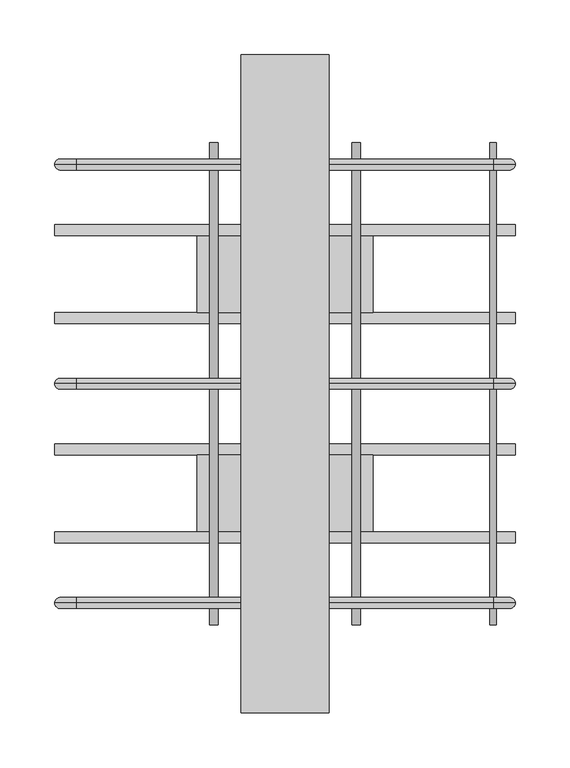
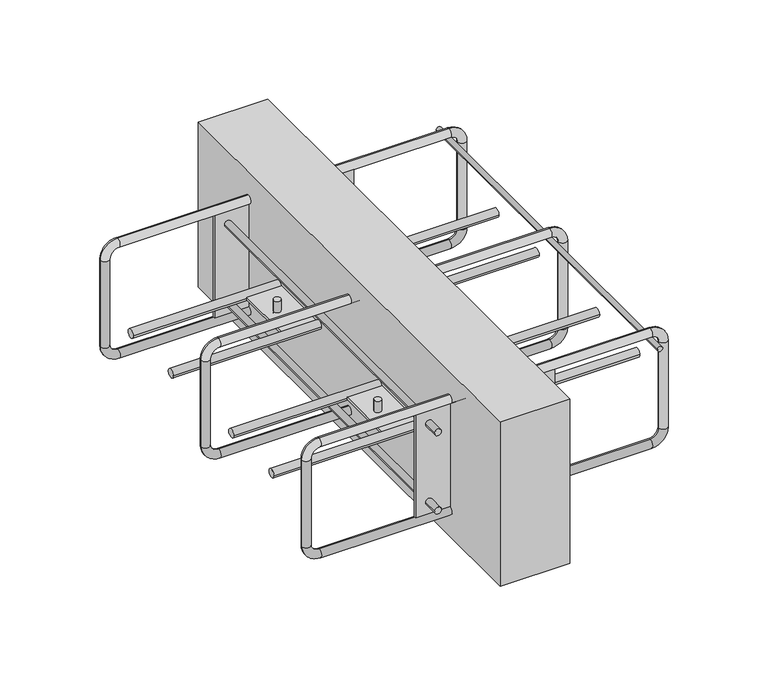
"""IFC4 building model written with IfcOpenShell, lengths in millimetres: fastener geometry, ACINOXplus_Typenreihe_Ux-Ox : OA+ S2."""

from ifc_helpers import new_model, si_unit, point, frame, frame_2d, origin, place, context, project, spatial, polyline, circle_curve, ellipse_curve, trimmed, segment, composite_curve, outline, extrude, source, transform, mapped, element, save
from ifc_brep_helpers import cylinder_surface, revolved_surface, advanced_brep


def fastener_5484707d(model_context):
    return source(origin(), model_context, "Body", "SolidModel", [
        extrude(outline(composite_curve([segment(trimmed(circle_curve(frame_2d((-40.5, 190.0)), 3.0), [point((-40.5, 193.0))], [point((-40.5, 187.0))], False, "CARTESIAN"), True, "CONTINUOUS"), segment(trimmed(circle_curve(frame_2d((-40.5, 190.0)), 3.0), [point((-40.5, 187.0))], [point((-40.5, 193.0))], False, "CARTESIAN"), True, "CONTINUOUS")], self_intersect=False)), frame((0.0, -220.0, 0.0), z_axis=(0.0, 1.0, 0.0), x_axis=(0.0, 0.0, 1.0)), (0.0, 0.0, 1.0), 440.0),
        extrude(outline(composite_curve([segment(trimmed(circle_curve(frame_2d((-140.0, -100.0)), 5.0), [point((-145.0, -100.0))], [point((-135.0, -100.0))], False, "CARTESIAN"), True, "CONTINUOUS"), segment(trimmed(circle_curve(frame_2d((-140.0, -100.0)), 5.0), [point((-135.0, -100.0))], [point((-145.0, -100.0))], False, "CARTESIAN"), True, "CONTINUOUS")], self_intersect=False)), frame((-210.0, 0.0, 0.0), z_axis=(1.0, 0.0, 0.0), x_axis=(0.0, 1.0, 0.0)), (0.0, 0.0, 1.0), 420.0),
        extrude(outline(composite_curve([segment(trimmed(circle_curve(frame_2d((-60.0, -100.0)), 5.0), [point((-65.0, -100.0))], [point((-55.0, -100.0))], False, "CARTESIAN"), True, "CONTINUOUS"), segment(trimmed(circle_curve(frame_2d((-60.0, -100.0)), 5.0), [point((-55.0, -100.0))], [point((-65.0, -100.0))], False, "CARTESIAN"), True, "CONTINUOUS")], self_intersect=False)), frame((-210.0, 0.0, 0.0), z_axis=(1.0, 0.0, 0.0), x_axis=(0.0, 1.0, 0.0)), (0.0, 0.0, 1.0), 420.0),
        extrude(outline(composite_curve([segment(trimmed(circle_curve(frame_2d((-65.0, -100.0)), 4.0), [point((-61.0, -100.0))], [point((-69.0, -100.0))], False, "CARTESIAN"), True, "CONTINUOUS"), segment(trimmed(circle_curve(frame_2d((-65.0, -100.0)), 4.0), [point((-69.0, -100.0))], [point((-61.0, -100.0))], False, "CARTESIAN"), True, "CONTINUOUS")], self_intersect=False)), frame((0.0, 0.0, -98.5), z_axis=(0.0, 0.0, 1.0), x_axis=(1.0, 0.0, 0.0)), (0.0, 0.0, 1.0), 13.5),
        extrude(outline(composite_curve([segment(trimmed(circle_curve(frame_2d((65.0, -100.0)), 4.0), [point((69.0, -100.0))], [point((61.0, -100.0))], False, "CARTESIAN"), True, "CONTINUOUS"), segment(trimmed(circle_curve(frame_2d((65.0, -100.0)), 4.0), [point((61.0, -100.0))], [point((69.0, -100.0))], False, "CARTESIAN"), True, "CONTINUOUS")], self_intersect=False)), frame((0.0, 0.0, -98.5), z_axis=(0.0, 0.0, 1.0), x_axis=(1.0, 0.0, 0.0)), (0.0, 0.0, 1.0), 13.5),
        extrude(outline(composite_curve([segment(trimmed(circle_curve(frame_2d((-65.0, -100.0)), 4.0), [point((-69.0, -100.0))], [point((-61.0, -100.0))], False, "CARTESIAN"), True, "CONTINUOUS"), segment(trimmed(circle_curve(frame_2d((-65.0, -100.0)), 4.0), [point((-61.0, -100.0))], [point((-69.0, -100.0))], False, "CARTESIAN"), True, "CONTINUOUS")], self_intersect=False)), frame((0.0, 0.0, -115.0), z_axis=(0.0, 0.0, 1.0), x_axis=(1.0, 0.0, 0.0)), (0.0, 0.0, 1.0), 13.5),
        extrude(outline(composite_curve([segment(trimmed(circle_curve(frame_2d((65.0, -100.0)), 4.0), [point((61.0, -100.0))], [point((69.0, -100.0))], False, "CARTESIAN"), True, "CONTINUOUS"), segment(trimmed(circle_curve(frame_2d((65.0, -100.0)), 4.0), [point((69.0, -100.0))], [point((61.0, -100.0))], False, "CARTESIAN"), True, "CONTINUOUS")], self_intersect=False)), frame((0.0, 0.0, -115.0), z_axis=(0.0, 0.0, 1.0), x_axis=(1.0, 0.0, 0.0)), (0.0, 0.0, 1.0), 13.5),
        extrude(outline(polyline([(80.0, -65.0), (80.0, -135.0), (-80.0, -135.0), (-80.0, -65.0), (80.0, -65.0)])), frame((0.0, 0.0, -101.5), z_axis=(0.0, 0.0, 1.0), x_axis=(1.0, 0.0, 0.0)), (0.0, 0.0, 1.0), 3.0),
        extrude(outline(composite_curve([segment(trimmed(circle_curve(frame_2d((60.0, -100.0)), 5.0), [point((55.0, -100.0))], [point((65.0, -100.0))], False, "CARTESIAN"), True, "CONTINUOUS"), segment(trimmed(circle_curve(frame_2d((60.0, -100.0)), 5.0), [point((65.0, -100.0))], [point((55.0, -100.0))], False, "CARTESIAN"), True, "CONTINUOUS")], self_intersect=False)), frame((-210.0, 0.0, 0.0), z_axis=(1.0, 0.0, 0.0), x_axis=(0.0, 1.0, 0.0)), (0.0, 0.0, 1.0), 420.0),
        extrude(outline(composite_curve([segment(trimmed(circle_curve(frame_2d((140.0, -100.0)), 5.0), [point((135.0, -100.0))], [point((145.0, -100.0))], False, "CARTESIAN"), True, "CONTINUOUS"), segment(trimmed(circle_curve(frame_2d((140.0, -100.0)), 5.0), [point((145.0, -100.0))], [point((135.0, -100.0))], False, "CARTESIAN"), True, "CONTINUOUS")], self_intersect=False)), frame((-210.0, 0.0, 0.0), z_axis=(1.0, 0.0, 0.0), x_axis=(0.0, 1.0, 0.0)), (0.0, 0.0, 1.0), 420.0),
        extrude(outline(composite_curve([segment(trimmed(circle_curve(frame_2d((-65.0, 100.0)), 4.0), [point((-61.0, 100.0))], [point((-69.0, 100.0))], False, "CARTESIAN"), True, "CONTINUOUS"), segment(trimmed(circle_curve(frame_2d((-65.0, 100.0)), 4.0), [point((-69.0, 100.0))], [point((-61.0, 100.0))], False, "CARTESIAN"), True, "CONTINUOUS")], self_intersect=False)), frame((0.0, 0.0, -98.5), z_axis=(0.0, 0.0, 1.0), x_axis=(1.0, 0.0, 0.0)), (0.0, 0.0, 1.0), 13.5),
        extrude(outline(composite_curve([segment(trimmed(circle_curve(frame_2d((65.0, 100.0)), 4.0), [point((69.0, 100.0))], [point((61.0, 100.0))], False, "CARTESIAN"), True, "CONTINUOUS"), segment(trimmed(circle_curve(frame_2d((65.0, 100.0)), 4.0), [point((61.0, 100.0))], [point((69.0, 100.0))], False, "CARTESIAN"), True, "CONTINUOUS")], self_intersect=False)), frame((0.0, 0.0, -98.5), z_axis=(0.0, 0.0, 1.0), x_axis=(1.0, 0.0, 0.0)), (0.0, 0.0, 1.0), 13.5),
        extrude(outline(composite_curve([segment(trimmed(circle_curve(frame_2d((-65.0, 100.0)), 4.0), [point((-69.0, 100.0))], [point((-61.0, 100.0))], False, "CARTESIAN"), True, "CONTINUOUS"), segment(trimmed(circle_curve(frame_2d((-65.0, 100.0)), 4.0), [point((-61.0, 100.0))], [point((-69.0, 100.0))], False, "CARTESIAN"), True, "CONTINUOUS")], self_intersect=False)), frame((0.0, 0.0, -115.0), z_axis=(0.0, 0.0, 1.0), x_axis=(1.0, 0.0, 0.0)), (0.0, 0.0, 1.0), 13.5),
        extrude(outline(composite_curve([segment(trimmed(circle_curve(frame_2d((65.0, 100.0)), 4.0), [point((61.0, 100.0))], [point((69.0, 100.0))], False, "CARTESIAN"), True, "CONTINUOUS"), segment(trimmed(circle_curve(frame_2d((65.0, 100.0)), 4.0), [point((69.0, 100.0))], [point((61.0, 100.0))], False, "CARTESIAN"), True, "CONTINUOUS")], self_intersect=False)), frame((0.0, 0.0, -115.0), z_axis=(0.0, 0.0, 1.0), x_axis=(1.0, 0.0, 0.0)), (0.0, 0.0, 1.0), 13.5),
        extrude(outline(polyline([(80.0, 135.0), (80.0, 65.0), (-80.0, 65.0), (-80.0, 135.0), (80.0, 135.0)])), frame((0.0, 0.0, -101.5), z_axis=(0.0, 0.0, 1.0), x_axis=(1.0, 0.0, 0.0)), (0.0, 0.0, 1.0), 3.0),
        extrude(outline(polyline([(40.0, 300.0), (40.0, -300.0), (-40.0, -300.0), (-40.0, 300.0), (40.0, 300.0)])), frame((0.0, 0.0, -200.0), z_axis=(0.0, 0.0, 1.0), x_axis=(1.0, 0.0, 0.0)), (0.0, 0.0, 1.0), 200.0),
        extrude(outline(polyline([(80.0, -198.5), (80.0, -201.5), (-80.0, -201.5), (-80.0, -198.5), (80.0, -198.5)])), frame((0.0, 0.0, -162.5), z_axis=(0.0, 0.0, 1.0), x_axis=(1.0, 0.0, 0.0)), (0.0, 0.0, 1.0), 125.0),
        extrude(outline(polyline([(80.0, 201.5), (80.0, 198.5), (-80.0, 198.5), (-80.0, 201.5), (80.0, 201.5)])), frame((0.0, 0.0, -162.5), z_axis=(0.0, 0.0, 1.0), x_axis=(1.0, 0.0, 0.0)), (0.0, 0.0, 1.0), 125.0),
        extrude(outline(composite_curve([segment(trimmed(circle_curve(frame_2d((-147.5, -65.0)), 4.0), [point((-147.5, -69.0))], [point((-147.5, -61.0))], False, "CARTESIAN"), True, "CONTINUOUS"), segment(trimmed(circle_curve(frame_2d((-147.5, -65.0)), 4.0), [point((-147.5, -61.0))], [point((-147.5, -69.0))], False, "CARTESIAN"), True, "CONTINUOUS")], self_intersect=False)), frame((0.0, 201.5, 0.0), z_axis=(0.0, 1.0, 0.0), x_axis=(0.0, 0.0, 1.0)), (0.0, 0.0, 1.0), 18.5),
        extrude(outline(composite_curve([segment(trimmed(circle_curve(frame_2d((-147.5, -65.0)), 4.0), [point((-147.5, -61.0))], [point((-147.5, -69.0))], False, "CARTESIAN"), True, "CONTINUOUS"), segment(trimmed(circle_curve(frame_2d((-147.5, -65.0)), 4.0), [point((-147.5, -69.0))], [point((-147.5, -61.0))], False, "CARTESIAN"), True, "CONTINUOUS")], self_intersect=False)), frame((0.0, -220.0, 0.0), z_axis=(0.0, 1.0, 0.0), x_axis=(0.0, 0.0, 1.0)), (0.0, 0.0, 1.0), 18.5),
        extrude(outline(composite_curve([segment(trimmed(circle_curve(frame_2d((-147.5, -65.0)), 4.0), [point((-147.5, -69.0))], [point((-147.5, -61.0))], False, "CARTESIAN"), True, "CONTINUOUS"), segment(trimmed(circle_curve(frame_2d((-147.5, -65.0)), 4.0), [point((-147.5, -61.0))], [point((-147.5, -69.0))], False, "CARTESIAN"), True, "CONTINUOUS")], self_intersect=False)), frame((0.0, -198.5, 0.0), z_axis=(0.0, 1.0, 0.0), x_axis=(0.0, 0.0, 1.0)), (0.0, 0.0, 1.0), 397.0),
        extrude(outline(composite_curve([segment(trimmed(circle_curve(frame_2d((-147.5, 65.0)), 4.0), [point((-147.5, 61.0))], [point((-147.5, 69.0))], False, "CARTESIAN"), True, "CONTINUOUS"), segment(trimmed(circle_curve(frame_2d((-147.5, 65.0)), 4.0), [point((-147.5, 69.0))], [point((-147.5, 61.0))], False, "CARTESIAN"), True, "CONTINUOUS")], self_intersect=False)), frame((0.0, 201.5, 0.0), z_axis=(0.0, 1.0, 0.0), x_axis=(0.0, 0.0, 1.0)), (0.0, 0.0, 1.0), 18.5),
        extrude(outline(composite_curve([segment(trimmed(circle_curve(frame_2d((-147.5, 65.0)), 4.0), [point((-147.5, 69.0))], [point((-147.5, 61.0))], False, "CARTESIAN"), True, "CONTINUOUS"), segment(trimmed(circle_curve(frame_2d((-147.5, 65.0)), 4.0), [point((-147.5, 61.0))], [point((-147.5, 69.0))], False, "CARTESIAN"), True, "CONTINUOUS")], self_intersect=False)), frame((0.0, -220.0, 0.0), z_axis=(0.0, 1.0, 0.0), x_axis=(0.0, 0.0, 1.0)), (0.0, 0.0, 1.0), 18.5),
        extrude(outline(composite_curve([segment(trimmed(circle_curve(frame_2d((-147.5, 65.0)), 4.0), [point((-147.5, 61.0))], [point((-147.5, 69.0))], False, "CARTESIAN"), True, "CONTINUOUS"), segment(trimmed(circle_curve(frame_2d((-147.5, 65.0)), 4.0), [point((-147.5, 69.0))], [point((-147.5, 61.0))], False, "CARTESIAN"), True, "CONTINUOUS")], self_intersect=False)), frame((0.0, -198.5, 0.0), z_axis=(0.0, 1.0, 0.0), x_axis=(0.0, 0.0, 1.0)), (0.0, 0.0, 1.0), 397.0),
        extrude(outline(composite_curve([segment(trimmed(circle_curve(frame_2d((-52.5, -65.0)), 4.0), [point((-52.5, -69.0))], [point((-52.5, -61.0))], False, "CARTESIAN"), True, "CONTINUOUS"), segment(trimmed(circle_curve(frame_2d((-52.5, -65.0)), 4.0), [point((-52.5, -61.0))], [point((-52.5, -69.0))], False, "CARTESIAN"), True, "CONTINUOUS")], self_intersect=False)), frame((0.0, 201.5, 0.0), z_axis=(0.0, 1.0, 0.0), x_axis=(0.0, 0.0, 1.0)), (0.0, 0.0, 1.0), 18.5),
        extrude(outline(composite_curve([segment(trimmed(circle_curve(frame_2d((-52.5, -65.0)), 4.0), [point((-52.5, -61.0))], [point((-52.5, -69.0))], False, "CARTESIAN"), True, "CONTINUOUS"), segment(trimmed(circle_curve(frame_2d((-52.5, -65.0)), 4.0), [point((-52.5, -69.0))], [point((-52.5, -61.0))], False, "CARTESIAN"), True, "CONTINUOUS")], self_intersect=False)), frame((0.0, -220.0, 0.0), z_axis=(0.0, 1.0, 0.0), x_axis=(0.0, 0.0, 1.0)), (0.0, 0.0, 1.0), 18.5),
        extrude(outline(composite_curve([segment(trimmed(circle_curve(frame_2d((-52.5, -65.0)), 4.0), [point((-52.5, -69.0))], [point((-52.5, -61.0))], False, "CARTESIAN"), True, "CONTINUOUS"), segment(trimmed(circle_curve(frame_2d((-52.5, -65.0)), 4.0), [point((-52.5, -61.0))], [point((-52.5, -69.0))], False, "CARTESIAN"), True, "CONTINUOUS")], self_intersect=False)), frame((0.0, -198.5, 0.0), z_axis=(0.0, 1.0, 0.0), x_axis=(0.0, 0.0, 1.0)), (0.0, 0.0, 1.0), 397.0),
        extrude(outline(composite_curve([segment(trimmed(circle_curve(frame_2d((-52.5, 65.0)), 4.0), [point((-52.5, 61.0))], [point((-52.5, 69.0))], False, "CARTESIAN"), True, "CONTINUOUS"), segment(trimmed(circle_curve(frame_2d((-52.5, 65.0)), 4.0), [point((-52.5, 69.0))], [point((-52.5, 61.0))], False, "CARTESIAN"), True, "CONTINUOUS")], self_intersect=False)), frame((0.0, 201.5, 0.0), z_axis=(0.0, 1.0, 0.0), x_axis=(0.0, 0.0, 1.0)), (0.0, 0.0, 1.0), 18.5),
        extrude(outline(composite_curve([segment(trimmed(circle_curve(frame_2d((-52.5, 65.0)), 4.0), [point((-52.5, 69.0))], [point((-52.5, 61.0))], False, "CARTESIAN"), True, "CONTINUOUS"), segment(trimmed(circle_curve(frame_2d((-52.5, 65.0)), 4.0), [point((-52.5, 61.0))], [point((-52.5, 69.0))], False, "CARTESIAN"), True, "CONTINUOUS")], self_intersect=False)), frame((0.0, -220.0, 0.0), z_axis=(0.0, 1.0, 0.0), x_axis=(0.0, 0.0, 1.0)), (0.0, 0.0, 1.0), 18.5),
        extrude(outline(composite_curve([segment(trimmed(circle_curve(frame_2d((-52.5, 65.0)), 4.0), [point((-52.5, 61.0))], [point((-52.5, 69.0))], False, "CARTESIAN"), True, "CONTINUOUS"), segment(trimmed(circle_curve(frame_2d((-52.5, 65.0)), 4.0), [point((-52.5, 69.0))], [point((-52.5, 61.0))], False, "CARTESIAN"), True, "CONTINUOUS")], self_intersect=False)), frame((0.0, -198.5, 0.0), z_axis=(0.0, 1.0, 0.0), x_axis=(0.0, 0.0, 1.0)), (0.0, 0.0, 1.0), 397.0),
        advanced_brep(
        [(190.0, 0.0, -37.5), (190.0, 0.0, -27.5), (-190.0, 0.0, -27.5), (-190.0, 0.0, -37.5), (-200.0, 0.0, -47.5), (-210.0, 0.0, -47.5), (-210.0, 0.0, -152.5), (-200.0, 0.0, -152.5), (-190.0, 0.0, -162.5), (-190.0, 0.0, -172.5), (190.0, 0.0, -172.5), (190.0, 0.0, -162.5), (200.0, 0.0, -152.5), (210.0, 0.0, -152.5), (210.0, 0.0, -47.5), (200.0, 0.0, -47.5)],
        [
            (0, 1, circle_curve(frame((190.0, 0.0, -32.5), z_axis=(-1.0, 0.0, 0.0), x_axis=(0.0, 0.0, -1.0)), 5.0)),
            (1, 2),
            (2, 3, circle_curve(frame((-190.0, 0.0, -32.5), z_axis=(1.0, 0.0, 0.0), x_axis=(0.0, 0.0, -1.0)), 5.0)),
            (3, 0),
            (1, 0, circle_curve(frame((190.0, 0.0, -32.5), z_axis=(-1.0, 0.0, 0.0), x_axis=(0.0, 0.0, -1.0)), 5.0)),
            (3, 2, circle_curve(frame((-190.0, 0.0, -32.5), z_axis=(1.0, 0.0, 0.0), x_axis=(0.0, 0.0, -1.0)), 5.0)),
            (4, 3, circle_curve(frame((-190.0, 0.0, -47.5), z_axis=(0.0, 1.0, 0.0), x_axis=(0.0, 0.0, 1.0)), 10.0)),
            (2, 5, circle_curve(frame((-190.0, 0.0, -47.5), z_axis=(0.0, -1.0, 0.0), x_axis=(0.0, 0.0, 1.0)), 20.0)),
            (5, 4, circle_curve(frame((-205.0, 0.0, -47.5), z_axis=(0.0, 0.0, 1.0), x_axis=(1.0, 0.0, 0.0)), 5.0)),
            (4, 5, circle_curve(frame((-205.0, 0.0, -47.5), z_axis=(0.0, 0.0, 1.0), x_axis=(1.0, 0.0, 0.0)), 5.0)),
            (5, 6),
            (6, 7, circle_curve(frame((-205.0, 0.0, -152.5), z_axis=(0.0, 0.0, 1.0), x_axis=(1.0, 0.0, 0.0)), 5.0)),
            (7, 4),
            (7, 6, circle_curve(frame((-205.0, 0.0, -152.5), z_axis=(0.0, 0.0, 1.0), x_axis=(1.0, 0.0, 0.0)), 5.0)),
            (8, 7, circle_curve(frame((-190.0, 0.0, -152.5), z_axis=(0.0, 1.0, 0.0), x_axis=(-1.0, 0.0, 0.0)), 10.0)),
            (6, 9, circle_curve(frame((-190.0, 0.0, -152.5), z_axis=(0.0, -1.0, 0.0), x_axis=(-1.0, 0.0, 0.0)), 20.0)),
            (9, 8, circle_curve(frame((-190.0, 0.0, -167.5), z_axis=(-1.0, 0.0, 0.0), x_axis=(0.0, 0.0, 1.0)), 5.0)),
            (8, 9, circle_curve(frame((-190.0, 0.0, -167.5), z_axis=(-1.0, 0.0, 0.0), x_axis=(0.0, 0.0, 1.0)), 5.0)),
            (9, 10),
            (10, 11, circle_curve(frame((190.0, 0.0, -167.5), z_axis=(-1.0, 0.0, 0.0), x_axis=(0.0, 0.0, 1.0)), 5.0)),
            (11, 8),
            (11, 10, circle_curve(frame((190.0, 0.0, -167.5), z_axis=(-1.0, 0.0, 0.0), x_axis=(0.0, 0.0, 1.0)), 5.0)),
            (12, 11, circle_curve(frame((190.0, 0.0, -152.5), z_axis=(0.0, 1.0, 0.0), x_axis=(0.0, 0.0, -1.0)), 10.0)),
            (10, 13, circle_curve(frame((190.0, 0.0, -152.5), z_axis=(0.0, -1.0, 0.0), x_axis=(0.0, 0.0, -1.0)), 20.0)),
            (13, 12, circle_curve(frame((205.0, 0.0, -152.5), z_axis=(0.0, 0.0, -1.0), x_axis=(-1.0, 0.0, 0.0)), 5.0)),
            (12, 13, circle_curve(frame((205.0, 0.0, -152.5), z_axis=(0.0, 0.0, -1.0), x_axis=(-1.0, 0.0, 0.0)), 5.0)),
            (13, 14),
            (14, 15, circle_curve(frame((205.0, 0.0, -47.5), z_axis=(0.0, 0.0, -1.0), x_axis=(-1.0, 0.0, 0.0)), 5.0)),
            (15, 12),
            (15, 14, circle_curve(frame((205.0, 0.0, -47.5), z_axis=(0.0, 0.0, -1.0), x_axis=(-1.0, 0.0, 0.0)), 5.0)),
            (0, 15, circle_curve(frame((190.0, 0.0, -47.5), z_axis=(0.0, 1.0, 0.0), x_axis=(1.0, 0.0, 0.0)), 10.0)),
            (14, 1, circle_curve(frame((190.0, 0.0, -47.5), z_axis=(0.0, -1.0, 0.0), x_axis=(1.0, 0.0, 0.0)), 20.0)),
        ],
        [
            cylinder_surface(frame((190.0, 0.0, -32.5), z_axis=(1.0, 0.0, 0.0), x_axis=(0.0, 0.0, -1.0)), 5.0),
            revolved_surface(trimmed(ellipse_curve(frame((-190.0, 0.0, -32.5), z_axis=(1.0, 0.0, 0.0), x_axis=(0.0, 0.0, -1.0)), 5.0, 5.0), [point((-190.0, 0.0, -27.5))], [point((-190.0, 0.0, -37.5))], True, "CARTESIAN"), (-190.0, 0.0, -47.5), (0.0, -1.0, 0.0)),
            revolved_surface(trimmed(ellipse_curve(frame((-190.0, 0.0, -32.5), z_axis=(1.0, 0.0, 0.0), x_axis=(0.0, 0.0, -1.0)), 5.0, 5.0), [point((-190.0, 0.0, -37.5))], [point((-190.0, 0.0, -27.5))], True, "CARTESIAN"), (-190.0, 0.0, -47.5), (0.0, -1.0, 0.0)),
            cylinder_surface(frame((-205.0, 0.0, -47.5), z_axis=(0.0, 0.0, 1.0), x_axis=(1.0, 0.0, 0.0)), 5.0),
            revolved_surface(trimmed(ellipse_curve(frame((-205.0, 0.0, -152.5), z_axis=(0.0, 0.0, 1.0), x_axis=(1.0, 0.0, 0.0)), 5.0, 5.0), [point((-210.0, 0.0, -152.5))], [point((-200.0, 0.0, -152.5))], True, "CARTESIAN"), (-190.0, 0.0, -152.5), (0.0, -1.0, 0.0)),
            revolved_surface(trimmed(ellipse_curve(frame((-205.0, 0.0, -152.5), z_axis=(0.0, 0.0, 1.0), x_axis=(1.0, 0.0, 0.0)), 5.0, 5.0), [point((-200.0, 0.0, -152.5))], [point((-210.0, 0.0, -152.5))], True, "CARTESIAN"), (-190.0, 0.0, -152.5), (0.0, -1.0, 0.0)),
            cylinder_surface(frame((-190.0, 0.0, -167.5), z_axis=(-1.0, 0.0, 0.0), x_axis=(0.0, 0.0, 1.0)), 5.0),
            revolved_surface(trimmed(ellipse_curve(frame((190.0, 0.0, -167.5), z_axis=(-1.0, 0.0, 0.0), x_axis=(0.0, 0.0, 1.0)), 5.0, 5.0), [point((190.0, 0.0, -172.5))], [point((190.0, 0.0, -162.5))], True, "CARTESIAN"), (190.0, 0.0, -152.5), (0.0, -1.0, 0.0)),
            revolved_surface(trimmed(ellipse_curve(frame((190.0, 0.0, -167.5), z_axis=(-1.0, 0.0, 0.0), x_axis=(0.0, 0.0, 1.0)), 5.0, 5.0), [point((190.0, 0.0, -162.5))], [point((190.0, 0.0, -172.5))], True, "CARTESIAN"), (190.0, 0.0, -152.5), (0.0, -1.0, 0.0)),
            cylinder_surface(frame((205.0, 0.0, -152.5), z_axis=(0.0, 0.0, -1.0), x_axis=(-1.0, 0.0, 0.0)), 5.0),
            revolved_surface(trimmed(ellipse_curve(frame((205.0, 0.0, -47.5), z_axis=(0.0, 0.0, -1.0), x_axis=(-1.0, 0.0, 0.0)), 5.0, 5.0), [point((210.0, 0.0, -47.5))], [point((200.0, 0.0, -47.5))], True, "CARTESIAN"), (190.0, 0.0, -47.5), (0.0, -1.0, 0.0)),
            revolved_surface(trimmed(ellipse_curve(frame((205.0, 0.0, -47.5), z_axis=(0.0, 0.0, -1.0), x_axis=(-1.0, 0.0, 0.0)), 5.0, 5.0), [point((200.0, 0.0, -47.5))], [point((210.0, 0.0, -47.5))], True, "CARTESIAN"), (190.0, 0.0, -47.5), (0.0, -1.0, 0.0)),
        ],
        [
            (0, [[1, 2, 3, 4]]),
            (0, [[5, -4, 6, -2]]),
            (1, [[7, -3, 8, 9]]),
            (2, [[-8, -6, -7, 10]]),
            (3, [[-9, 11, 12, 13]]),
            (3, [[-10, -13, 14, -11]]),
            (4, [[15, -12, 16, 17]]),
            (5, [[-16, -14, -15, 18]]),
            (6, [[-17, 19, 20, 21]]),
            (6, [[-18, -21, 22, -19]]),
            (7, [[23, -20, 24, 25]]),
            (8, [[-24, -22, -23, 26]]),
            (9, [[-25, 27, 28, 29]]),
            (9, [[-26, -29, 30, -27]]),
            (10, [[31, -28, 32, -1]]),
            (11, [[-32, -30, -31, -5]]),
        ],
    ),
        advanced_brep(
        [(190.0, 200.0, -37.5), (190.0, 200.0, -27.5), (-190.0, 200.0, -27.5), (-190.0, 200.0, -37.5), (-200.0, 200.0, -47.5), (-210.0, 200.0, -47.5), (-210.0, 200.0, -152.5), (-200.0, 200.0, -152.5), (-190.0, 200.0, -162.5), (-190.0, 200.0, -172.5), (190.0, 200.0, -172.5), (190.0, 200.0, -162.5), (200.0, 200.0, -152.5), (210.0, 200.0, -152.5), (210.0, 200.0, -47.5), (200.0, 200.0, -47.5)],
        [
            (0, 1, circle_curve(frame((190.0, 200.0, -32.5), z_axis=(-1.0, 0.0, 0.0), x_axis=(0.0, 0.0, -1.0)), 5.0)),
            (1, 2),
            (2, 3, circle_curve(frame((-190.0, 200.0, -32.5), z_axis=(1.0, 0.0, 0.0), x_axis=(0.0, 0.0, -1.0)), 5.0)),
            (3, 0),
            (1, 0, circle_curve(frame((190.0, 200.0, -32.5), z_axis=(-1.0, 0.0, 0.0), x_axis=(0.0, 0.0, -1.0)), 5.0)),
            (3, 2, circle_curve(frame((-190.0, 200.0, -32.5), z_axis=(1.0, 0.0, 0.0), x_axis=(0.0, 0.0, -1.0)), 5.0)),
            (4, 3, circle_curve(frame((-190.0, 200.0, -47.5), z_axis=(0.0, 1.0, 0.0), x_axis=(0.0, 0.0, 1.0)), 10.0)),
            (2, 5, circle_curve(frame((-190.0, 200.0, -47.5), z_axis=(0.0, -1.0, 0.0), x_axis=(0.0, 0.0, 1.0)), 20.0)),
            (5, 4, circle_curve(frame((-205.0, 200.0, -47.5), z_axis=(0.0, 0.0, 1.0), x_axis=(1.0, 0.0, 0.0)), 5.0)),
            (4, 5, circle_curve(frame((-205.0, 200.0, -47.5), z_axis=(0.0, 0.0, 1.0), x_axis=(1.0, 0.0, 0.0)), 5.0)),
            (5, 6),
            (6, 7, circle_curve(frame((-205.0, 200.0, -152.5), z_axis=(0.0, 0.0, 1.0), x_axis=(1.0, 0.0, 0.0)), 5.0)),
            (7, 4),
            (7, 6, circle_curve(frame((-205.0, 200.0, -152.5), z_axis=(0.0, 0.0, 1.0), x_axis=(1.0, 0.0, 0.0)), 5.0)),
            (8, 7, circle_curve(frame((-190.0, 200.0, -152.5), z_axis=(0.0, 1.0, 0.0), x_axis=(-1.0, 0.0, 0.0)), 10.0)),
            (6, 9, circle_curve(frame((-190.0, 200.0, -152.5), z_axis=(0.0, -1.0, 0.0), x_axis=(-1.0, 0.0, 0.0)), 20.0)),
            (9, 8, circle_curve(frame((-190.0, 200.0, -167.5), z_axis=(-1.0, 0.0, 0.0), x_axis=(0.0, 0.0, 1.0)), 5.0)),
            (8, 9, circle_curve(frame((-190.0, 200.0, -167.5), z_axis=(-1.0, 0.0, 0.0), x_axis=(0.0, 0.0, 1.0)), 5.0)),
            (9, 10),
            (10, 11, circle_curve(frame((190.0, 200.0, -167.5), z_axis=(-1.0, 0.0, 0.0), x_axis=(0.0, 0.0, 1.0)), 5.0)),
            (11, 8),
            (11, 10, circle_curve(frame((190.0, 200.0, -167.5), z_axis=(-1.0, 0.0, 0.0), x_axis=(0.0, 0.0, 1.0)), 5.0)),
            (12, 11, circle_curve(frame((190.0, 200.0, -152.5), z_axis=(0.0, 1.0, 0.0), x_axis=(0.0, 0.0, -1.0)), 10.0)),
            (10, 13, circle_curve(frame((190.0, 200.0, -152.5), z_axis=(0.0, -1.0, 0.0), x_axis=(0.0, 0.0, -1.0)), 20.0)),
            (13, 12, circle_curve(frame((205.0, 200.0, -152.5), z_axis=(0.0, 0.0, -1.0), x_axis=(-1.0, 0.0, 0.0)), 5.0)),
            (12, 13, circle_curve(frame((205.0, 200.0, -152.5), z_axis=(0.0, 0.0, -1.0), x_axis=(-1.0, 0.0, 0.0)), 5.0)),
            (13, 14),
            (14, 15, circle_curve(frame((205.0, 200.0, -47.5), z_axis=(0.0, 0.0, -1.0), x_axis=(-1.0, 0.0, 0.0)), 5.0)),
            (15, 12),
            (15, 14, circle_curve(frame((205.0, 200.0, -47.5), z_axis=(0.0, 0.0, -1.0), x_axis=(-1.0, 0.0, 0.0)), 5.0)),
            (0, 15, circle_curve(frame((190.0, 200.0, -47.5), z_axis=(0.0, 1.0, 0.0), x_axis=(1.0, 0.0, 0.0)), 10.0)),
            (14, 1, circle_curve(frame((190.0, 200.0, -47.5), z_axis=(0.0, -1.0, 0.0), x_axis=(1.0, 0.0, 0.0)), 20.0)),
        ],
        [
            cylinder_surface(frame((190.0, 200.0, -32.5), z_axis=(1.0, 0.0, 0.0), x_axis=(0.0, 0.0, -1.0)), 5.0),
            revolved_surface(trimmed(ellipse_curve(frame((-190.0, 200.0, -32.5), z_axis=(1.0, 0.0, 0.0), x_axis=(0.0, 0.0, -1.0)), 5.0, 5.0), [point((-190.0, 200.0, -27.5))], [point((-190.0, 200.0, -37.5))], True, "CARTESIAN"), (-190.0, 200.0, -47.5), (0.0, -1.0, 0.0)),
            revolved_surface(trimmed(ellipse_curve(frame((-190.0, 200.0, -32.5), z_axis=(1.0, 0.0, 0.0), x_axis=(0.0, 0.0, -1.0)), 5.0, 5.0), [point((-190.0, 200.0, -37.5))], [point((-190.0, 200.0, -27.5))], True, "CARTESIAN"), (-190.0, 200.0, -47.5), (0.0, -1.0, 0.0)),
            cylinder_surface(frame((-205.0, 200.0, -47.5), z_axis=(0.0, 0.0, 1.0), x_axis=(1.0, 0.0, 0.0)), 5.0),
            revolved_surface(trimmed(ellipse_curve(frame((-205.0, 200.0, -152.5), z_axis=(0.0, 0.0, 1.0), x_axis=(1.0, 0.0, 0.0)), 5.0, 5.0), [point((-210.0, 200.0, -152.5))], [point((-200.0, 200.0, -152.5))], True, "CARTESIAN"), (-190.0, 200.0, -152.5), (0.0, -1.0, 0.0)),
            revolved_surface(trimmed(ellipse_curve(frame((-205.0, 200.0, -152.5), z_axis=(0.0, 0.0, 1.0), x_axis=(1.0, 0.0, 0.0)), 5.0, 5.0), [point((-200.0, 200.0, -152.5))], [point((-210.0, 200.0, -152.5))], True, "CARTESIAN"), (-190.0, 200.0, -152.5), (0.0, -1.0, 0.0)),
            cylinder_surface(frame((-190.0, 200.0, -167.5), z_axis=(-1.0, 0.0, 0.0), x_axis=(0.0, 0.0, 1.0)), 5.0),
            revolved_surface(trimmed(ellipse_curve(frame((190.0, 200.0, -167.5), z_axis=(-1.0, 0.0, 0.0), x_axis=(0.0, 0.0, 1.0)), 5.0, 5.0), [point((190.0, 200.0, -172.5))], [point((190.0, 200.0, -162.5))], True, "CARTESIAN"), (190.0, 200.0, -152.5), (0.0, -1.0, 0.0)),
            revolved_surface(trimmed(ellipse_curve(frame((190.0, 200.0, -167.5), z_axis=(-1.0, 0.0, 0.0), x_axis=(0.0, 0.0, 1.0)), 5.0, 5.0), [point((190.0, 200.0, -162.5))], [point((190.0, 200.0, -172.5))], True, "CARTESIAN"), (190.0, 200.0, -152.5), (0.0, -1.0, 0.0)),
            cylinder_surface(frame((205.0, 200.0, -152.5), z_axis=(0.0, 0.0, -1.0), x_axis=(-1.0, 0.0, 0.0)), 5.0),
            revolved_surface(trimmed(ellipse_curve(frame((205.0, 200.0, -47.5), z_axis=(0.0, 0.0, -1.0), x_axis=(-1.0, 0.0, 0.0)), 5.0, 5.0), [point((210.0, 200.0, -47.5))], [point((200.0, 200.0, -47.5))], True, "CARTESIAN"), (190.0, 200.0, -47.5), (0.0, -1.0, 0.0)),
            revolved_surface(trimmed(ellipse_curve(frame((205.0, 200.0, -47.5), z_axis=(0.0, 0.0, -1.0), x_axis=(-1.0, 0.0, 0.0)), 5.0, 5.0), [point((200.0, 200.0, -47.5))], [point((210.0, 200.0, -47.5))], True, "CARTESIAN"), (190.0, 200.0, -47.5), (0.0, -1.0, 0.0)),
        ],
        [
            (0, [[1, 2, 3, 4]]),
            (0, [[5, -4, 6, -2]]),
            (1, [[7, -3, 8, 9]]),
            (2, [[-8, -6, -7, 10]]),
            (3, [[-9, 11, 12, 13]]),
            (3, [[-10, -13, 14, -11]]),
            (4, [[15, -12, 16, 17]]),
            (5, [[-16, -14, -15, 18]]),
            (6, [[-17, 19, 20, 21]]),
            (6, [[-18, -21, 22, -19]]),
            (7, [[23, -20, 24, 25]]),
            (8, [[-24, -22, -23, 26]]),
            (9, [[-25, 27, 28, 29]]),
            (9, [[-26, -29, 30, -27]]),
            (10, [[31, -28, 32, -1]]),
            (11, [[-32, -30, -31, -5]]),
        ],
    ),
        advanced_brep(
        [(190.0, -200.0, -37.5), (190.0, -200.0, -27.5), (-190.0, -200.0, -27.5), (-190.0, -200.0, -37.5), (-200.0, -200.0, -47.5), (-210.0, -200.0, -47.5), (-210.0, -200.0, -152.5), (-200.0, -200.0, -152.5), (-190.0, -200.0, -162.5), (-190.0, -200.0, -172.5), (190.0, -200.0, -172.5), (190.0, -200.0, -162.5), (200.0, -200.0, -152.5), (210.0, -200.0, -152.5), (210.0, -200.0, -47.5), (200.0, -200.0, -47.5)],
        [
            (0, 1, circle_curve(frame((190.0, -200.0, -32.5), z_axis=(-1.0, 0.0, 0.0), x_axis=(0.0, 0.0, -1.0)), 5.0)),
            (1, 2),
            (2, 3, circle_curve(frame((-190.0, -200.0, -32.5), z_axis=(1.0, 0.0, 0.0), x_axis=(0.0, 0.0, -1.0)), 5.0)),
            (3, 0),
            (1, 0, circle_curve(frame((190.0, -200.0, -32.5), z_axis=(-1.0, 0.0, 0.0), x_axis=(0.0, 0.0, -1.0)), 5.0)),
            (3, 2, circle_curve(frame((-190.0, -200.0, -32.5), z_axis=(1.0, 0.0, 0.0), x_axis=(0.0, 0.0, -1.0)), 5.0)),
            (4, 3, circle_curve(frame((-190.0, -200.0, -47.5), z_axis=(0.0, 1.0, 0.0), x_axis=(0.0, 0.0, 1.0)), 10.0)),
            (2, 5, circle_curve(frame((-190.0, -200.0, -47.5), z_axis=(0.0, -1.0, 0.0), x_axis=(0.0, 0.0, 1.0)), 20.0)),
            (5, 4, circle_curve(frame((-205.0, -200.0, -47.5), z_axis=(0.0, 0.0, 1.0), x_axis=(1.0, 0.0, 0.0)), 5.0)),
            (4, 5, circle_curve(frame((-205.0, -200.0, -47.5), z_axis=(0.0, 0.0, 1.0), x_axis=(1.0, 0.0, 0.0)), 5.0)),
            (5, 6),
            (6, 7, circle_curve(frame((-205.0, -200.0, -152.5), z_axis=(0.0, 0.0, 1.0), x_axis=(1.0, 0.0, 0.0)), 5.0)),
            (7, 4),
            (7, 6, circle_curve(frame((-205.0, -200.0, -152.5), z_axis=(0.0, 0.0, 1.0), x_axis=(1.0, 0.0, 0.0)), 5.0)),
            (8, 7, circle_curve(frame((-190.0, -200.0, -152.5), z_axis=(0.0, 1.0, 0.0), x_axis=(-1.0, 0.0, 0.0)), 10.0)),
            (6, 9, circle_curve(frame((-190.0, -200.0, -152.5), z_axis=(0.0, -1.0, 0.0), x_axis=(-1.0, 0.0, 0.0)), 20.0)),
            (9, 8, circle_curve(frame((-190.0, -200.0, -167.5), z_axis=(-1.0, 0.0, 0.0), x_axis=(0.0, 0.0, 1.0)), 5.0)),
            (8, 9, circle_curve(frame((-190.0, -200.0, -167.5), z_axis=(-1.0, 0.0, 0.0), x_axis=(0.0, 0.0, 1.0)), 5.0)),
            (9, 10),
            (10, 11, circle_curve(frame((190.0, -200.0, -167.5), z_axis=(-1.0, 0.0, 0.0), x_axis=(0.0, 0.0, 1.0)), 5.0)),
            (11, 8),
            (11, 10, circle_curve(frame((190.0, -200.0, -167.5), z_axis=(-1.0, 0.0, 0.0), x_axis=(0.0, 0.0, 1.0)), 5.0)),
            (12, 11, circle_curve(frame((190.0, -200.0, -152.5), z_axis=(0.0, 1.0, 0.0), x_axis=(0.0, 0.0, -1.0)), 10.0)),
            (10, 13, circle_curve(frame((190.0, -200.0, -152.5), z_axis=(0.0, -1.0, 0.0), x_axis=(0.0, 0.0, -1.0)), 20.0)),
            (13, 12, circle_curve(frame((205.0, -200.0, -152.5), z_axis=(0.0, 0.0, -1.0), x_axis=(-1.0, 0.0, 0.0)), 5.0)),
            (12, 13, circle_curve(frame((205.0, -200.0, -152.5), z_axis=(0.0, 0.0, -1.0), x_axis=(-1.0, 0.0, 0.0)), 5.0)),
            (13, 14),
            (14, 15, circle_curve(frame((205.0, -200.0, -47.5), z_axis=(0.0, 0.0, -1.0), x_axis=(-1.0, 0.0, 0.0)), 5.0)),
            (15, 12),
            (15, 14, circle_curve(frame((205.0, -200.0, -47.5), z_axis=(0.0, 0.0, -1.0), x_axis=(-1.0, 0.0, 0.0)), 5.0)),
            (0, 15, circle_curve(frame((190.0, -200.0, -47.5), z_axis=(0.0, 1.0, 0.0), x_axis=(1.0, 0.0, 0.0)), 10.0)),
            (14, 1, circle_curve(frame((190.0, -200.0, -47.5), z_axis=(0.0, -1.0, 0.0), x_axis=(1.0, 0.0, 0.0)), 20.0)),
        ],
        [
            cylinder_surface(frame((190.0, -200.0, -32.5), z_axis=(1.0, 0.0, 0.0), x_axis=(0.0, 0.0, -1.0)), 5.0),
            revolved_surface(trimmed(ellipse_curve(frame((-190.0, -200.0, -32.5), z_axis=(1.0, 0.0, 0.0), x_axis=(0.0, 0.0, -1.0)), 5.0, 5.0), [point((-190.0, -200.0, -27.5))], [point((-190.0, -200.0, -37.5))], True, "CARTESIAN"), (-190.0, -200.0, -47.5), (0.0, -1.0, 0.0)),
            revolved_surface(trimmed(ellipse_curve(frame((-190.0, -200.0, -32.5), z_axis=(1.0, 0.0, 0.0), x_axis=(0.0, 0.0, -1.0)), 5.0, 5.0), [point((-190.0, -200.0, -37.5))], [point((-190.0, -200.0, -27.5))], True, "CARTESIAN"), (-190.0, -200.0, -47.5), (0.0, -1.0, 0.0)),
            cylinder_surface(frame((-205.0, -200.0, -47.5), z_axis=(0.0, 0.0, 1.0), x_axis=(1.0, 0.0, 0.0)), 5.0),
            revolved_surface(trimmed(ellipse_curve(frame((-205.0, -200.0, -152.5), z_axis=(0.0, 0.0, 1.0), x_axis=(1.0, 0.0, 0.0)), 5.0, 5.0), [point((-210.0, -200.0, -152.5))], [point((-200.0, -200.0, -152.5))], True, "CARTESIAN"), (-190.0, -200.0, -152.5), (0.0, -1.0, 0.0)),
            revolved_surface(trimmed(ellipse_curve(frame((-205.0, -200.0, -152.5), z_axis=(0.0, 0.0, 1.0), x_axis=(1.0, 0.0, 0.0)), 5.0, 5.0), [point((-200.0, -200.0, -152.5))], [point((-210.0, -200.0, -152.5))], True, "CARTESIAN"), (-190.0, -200.0, -152.5), (0.0, -1.0, 0.0)),
            cylinder_surface(frame((-190.0, -200.0, -167.5), z_axis=(-1.0, 0.0, 0.0), x_axis=(0.0, 0.0, 1.0)), 5.0),
            revolved_surface(trimmed(ellipse_curve(frame((190.0, -200.0, -167.5), z_axis=(-1.0, 0.0, 0.0), x_axis=(0.0, 0.0, 1.0)), 5.0, 5.0), [point((190.0, -200.0, -172.5))], [point((190.0, -200.0, -162.5))], True, "CARTESIAN"), (190.0, -200.0, -152.5), (0.0, -1.0, 0.0)),
            revolved_surface(trimmed(ellipse_curve(frame((190.0, -200.0, -167.5), z_axis=(-1.0, 0.0, 0.0), x_axis=(0.0, 0.0, 1.0)), 5.0, 5.0), [point((190.0, -200.0, -162.5))], [point((190.0, -200.0, -172.5))], True, "CARTESIAN"), (190.0, -200.0, -152.5), (0.0, -1.0, 0.0)),
            cylinder_surface(frame((205.0, -200.0, -152.5), z_axis=(0.0, 0.0, -1.0), x_axis=(-1.0, 0.0, 0.0)), 5.0),
            revolved_surface(trimmed(ellipse_curve(frame((205.0, -200.0, -47.5), z_axis=(0.0, 0.0, -1.0), x_axis=(-1.0, 0.0, 0.0)), 5.0, 5.0), [point((210.0, -200.0, -47.5))], [point((200.0, -200.0, -47.5))], True, "CARTESIAN"), (190.0, -200.0, -47.5), (0.0, -1.0, 0.0)),
            revolved_surface(trimmed(ellipse_curve(frame((205.0, -200.0, -47.5), z_axis=(0.0, 0.0, -1.0), x_axis=(-1.0, 0.0, 0.0)), 5.0, 5.0), [point((200.0, -200.0, -47.5))], [point((210.0, -200.0, -47.5))], True, "CARTESIAN"), (190.0, -200.0, -47.5), (0.0, -1.0, 0.0)),
        ],
        [
            (0, [[1, 2, 3, 4]]),
            (0, [[5, -4, 6, -2]]),
            (1, [[7, -3, 8, 9]]),
            (2, [[-8, -6, -7, 10]]),
            (3, [[-9, 11, 12, 13]]),
            (3, [[-10, -13, 14, -11]]),
            (4, [[15, -12, 16, 17]]),
            (5, [[-16, -14, -15, 18]]),
            (6, [[-17, 19, 20, 21]]),
            (6, [[-18, -21, 22, -19]]),
            (7, [[23, -20, 24, 25]]),
            (8, [[-24, -22, -23, 26]]),
            (9, [[-25, 27, 28, 29]]),
            (9, [[-26, -29, 30, -27]]),
            (10, [[31, -28, 32, -1]]),
            (11, [[-32, -30, -31, -5]]),
        ],
    ),
    ])


if __name__ == "__main__":
    model = new_model("IFC4")
    model_context = context("Model", 3, world=origin())
    ifc_project = project(units=[si_unit("LENGTHUNIT", "METRE", prefix="MILLI")], contexts=[model_context])
    site = spatial("IfcSite", under=ifc_project)
    building = spatial("IfcBuilding", under=site)
    placement = place(None, origin())
    fastener_shape = fastener_5484707d(model_context)
    element("IfcFastener", 1, ObjectType="ACINOXplus_Typenreihe_Ux-Ox : OA+ S2", at=placement, inside=building, context=model_context, shape_type="MappedRepresentation", body=[
        mapped(fastener_shape, transform((0.0, 0.0, 0.0), x_axis=(1.0, 0.0, 0.0), y_axis=(0.0, 1.0, 0.0), z_axis=(0.0, 0.0, 1.0))),
    ])
    save(model, "model.ifc")
